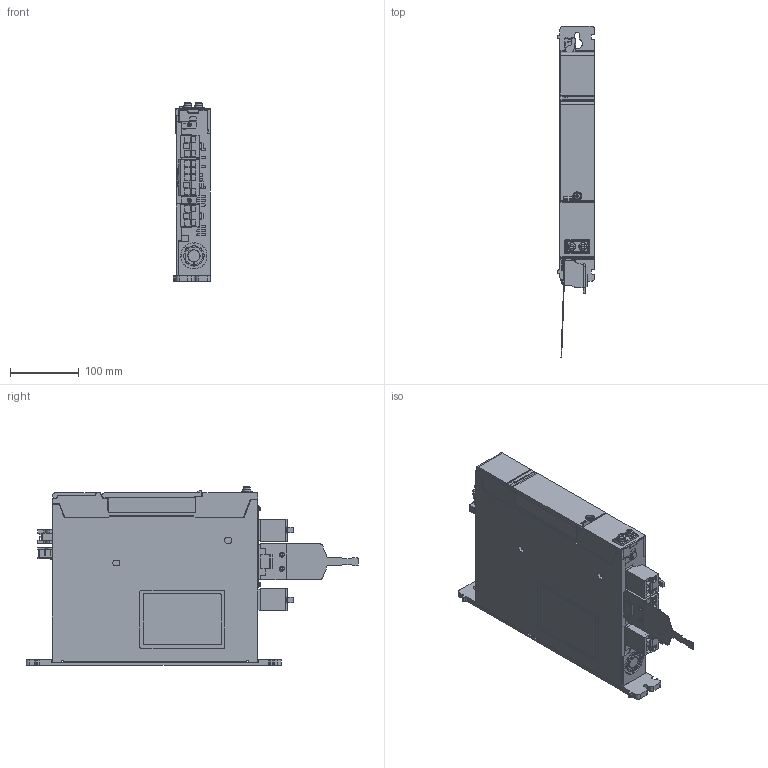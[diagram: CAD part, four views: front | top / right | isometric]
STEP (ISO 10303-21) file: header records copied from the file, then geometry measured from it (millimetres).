
FILE_DESCRIPTION( ( 'STEP AP214' ), '1' );
FILE_NAME( 'p:/temp/worker_10/temp/exporttempdir_3648_2309_LEytw/format_0/MADMPN14.stp', '2020-08-27T07:39:48', ( 'License CC BY-ND 4.0' ), ( 'CADENAS' ), ' ', 'PARTsolutions', ' ' );
FILE_SCHEMA( ( 'AUTOMOTIVE_DESIGN { 1 0 10303 214 1 1 1 1 }' ) );
Length unit declared in the file: millimetre
Products named in the file (1): _MADMPN14
Bounding box: 54.44 x 481.16 x 259 mm (x, y, z)
Volume: 3838871.7 mm3; surface area: 305268.3 mm2
Topology: 1 solids, 7 shells, 2234 faces, 6100 edges, 4023 vertices
Faces by surface type: plane 1539, cylinder 624, cone 40, torus 26, sphere 3, bspline 2
Full cylindrical faces by diameter (mm): 2.2 x2, 5.5 x2, 6 x2, 6.5 x2, 7.1 x2, 9.085 x1, 10 x14, 11.5 x2
Entity records: 88070 total; most frequent: CARTESIAN_POINT 12695, ORIENTED_EDGE 12018, DIRECTION 11830, EDGE_CURVE 6009, LINE 4552, VECTOR 4552, VERTEX_POINT 4014, AXIS2_PLACEMENT_3D 3639
